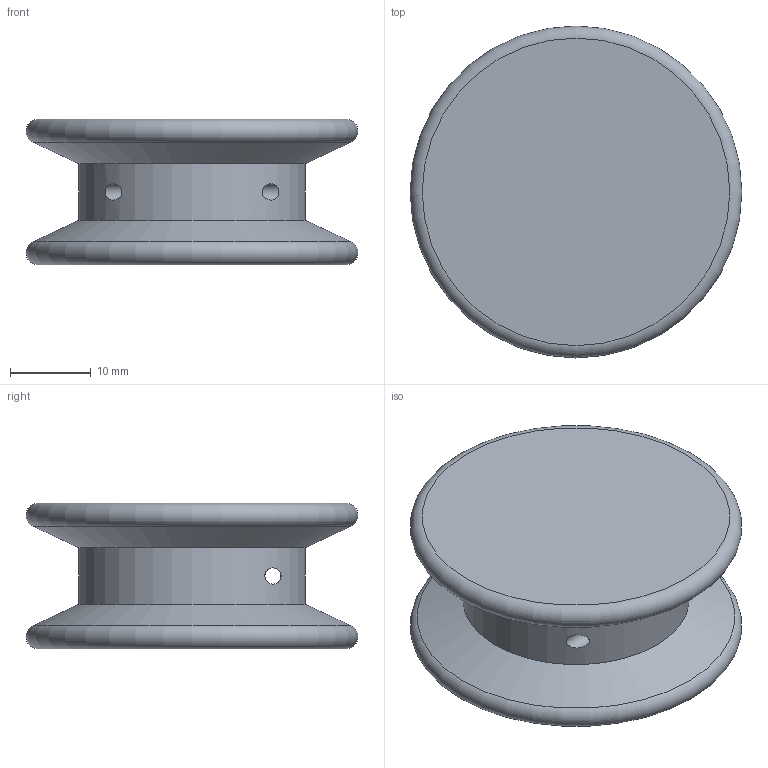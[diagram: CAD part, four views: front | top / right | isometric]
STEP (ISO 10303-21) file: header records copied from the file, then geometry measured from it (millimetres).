
FILE_DESCRIPTION(('FreeCAD Model'),'2;1');
FILE_NAME('Open CASCADE Shape Model','2021-07-26T18:43:26',('Author'),( ''),'Open CASCADE STEP processor 7.4','FreeCAD','Unknown');
FILE_SCHEMA(('AUTOMOTIVE_DESIGN { 1 0 10303 214 1 1 1 1 }'));
Length unit declared in the file: millimetre
Products named in the file (1): Spool
Bounding box: 41 x 41 x 18 mm (x, y, z)
Volume: 15243 mm3; surface area: 6081.3 mm2
Topology: 1 solids, 1 shells, 93 faces, 266 edges, 176 vertices
Faces by surface type: extrusion 84, plane 3, cylinder 2, cone 2, torus 2
Full cylindrical faces by diameter (mm): 2 x1, 28 x1
Entity records: 7672 total; most frequent: CARTESIAN_POINT 2964, DIRECTION 568, ORIENTED_EDGE 532, PCURVE 532, DEFINITIONAL_REPRESENTATION 532, VECTOR 530, LINE 446, B_SPLINE_CURVE_WITH_KNOTS 426
